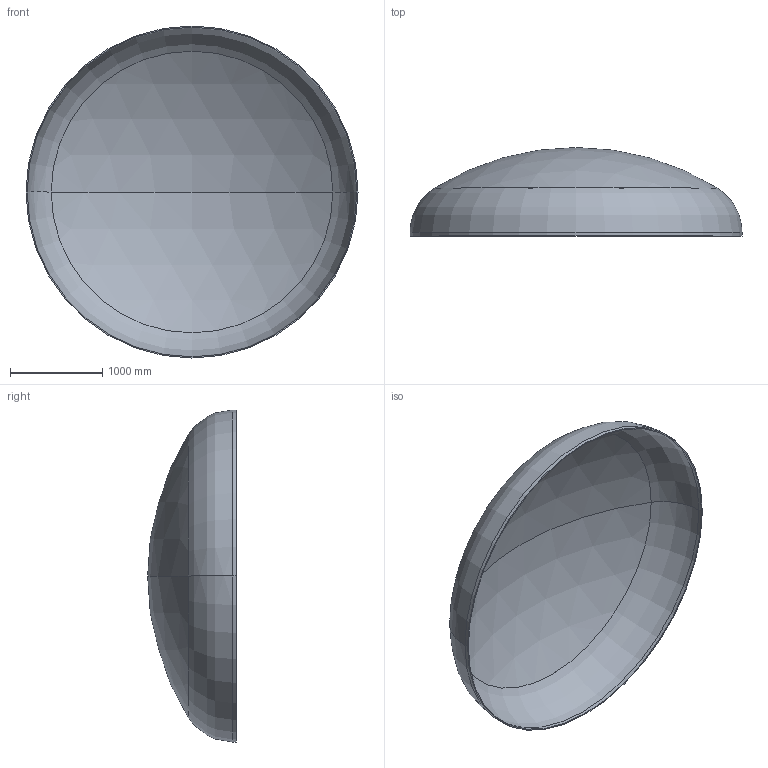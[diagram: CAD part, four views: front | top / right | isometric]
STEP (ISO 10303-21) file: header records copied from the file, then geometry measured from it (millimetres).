
FILE_DESCRIPTION (( 'STEP AP203' ), '1' );
FILE_NAME ('DIN 28013 Korbbogenform_-_Boden DIN 28013 - 3600 x 40 - I - s=12.step', '2016-07-01T20:05:49', ( '' ), ( '' ), 'SwSTEP 2.0', 'SolidWorks 2013', '' );
FILE_SCHEMA (( 'CONFIG_CONTROL_DESIGN' ));
Length unit declared in the file: millimetre
Products named in the file (1): DIN 28013 Korbbogenform_-_Boden DIN 28013 - 3600 x 40 - I - s=12
Bounding box: 3600 x 960.87 x 3600 mm (x, y, z)
Volume: 173882082.6 mm3; surface area: 29115901.4 mm2
Topology: 1 solids, 1 shells, 13 faces, 24 edges, 14 vertices
Faces by surface type: torus 4, cylinder 4, sphere 4, plane 1
Entity records: 407 total; most frequent: DIRECTION 72, CARTESIAN_POINT 52, ORIENTED_EDGE 48, AXIS2_PLACEMENT_3D 34, EDGE_CURVE 24, CIRCLE 20, VERTEX_POINT 14, EDGE_LOOP 14
